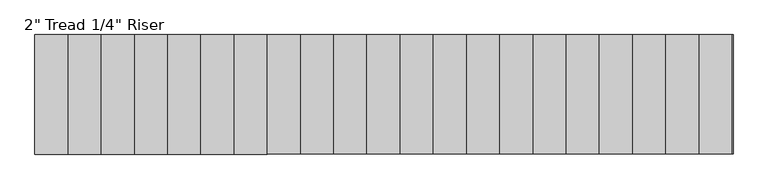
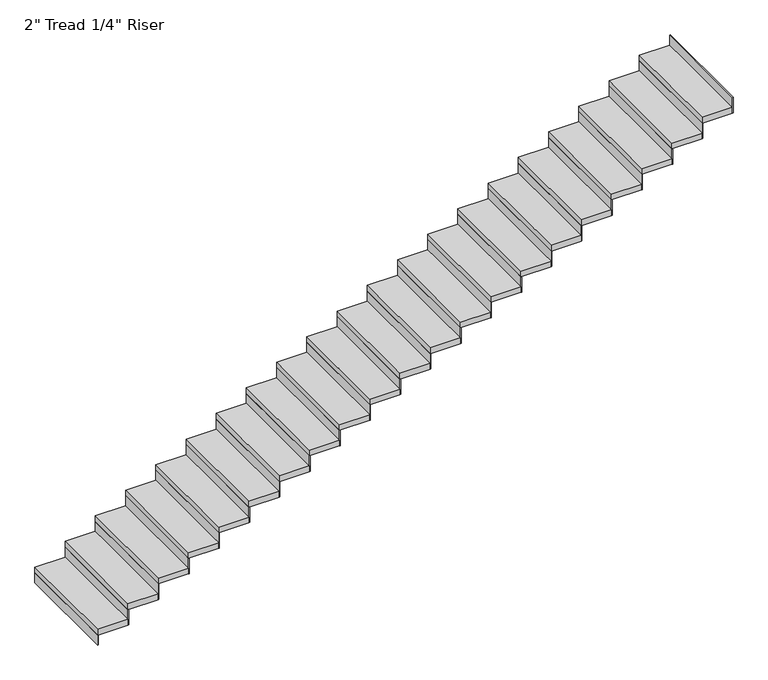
"""IFC4 building model written with IfcOpenShell, lengths in millimetres: stair flight geometry."""

from ifc_helpers import new_model, si_unit, frame, origin, origin_with_axes, place, context, project, spatial, polyline, outline, extrude, source, transform, mapped, element, save


def stair_flight_10bc530e(model_context):
    return source(origin(), model_context, "Body", "SweptSolid", [
        extrude(outline(polyline([(13209.8286682, -10136.835031), (13203.4786682, -10136.835031), (13203.4786682, -9222.435031), (13209.8286682, -9222.435031), (13209.8286682, -10136.835031)])), origin_with_axes(), (0.0, 0.0, 1.0), 87.7454545),
        extrude(outline(polyline([(13457.4786682, -9222.435031), (13457.4786682, -10136.835031), (13203.4786682, -10136.835031), (13203.4786682, -9222.435031), (13457.4786682, -9222.435031)])), frame((0.0, 0.0, 87.7454545), z_axis=(0.0, 0.0, 1.0), x_axis=(1.0, 0.0, 0.0)), (0.0, 0.0, 1.0), 50.8),
        extrude(outline(polyline([(13463.8286682, -10136.835031), (13457.4786682, -10136.835031), (13457.4786682, -9222.435031), (13463.8286682, -9222.435031), (13463.8286682, -10136.835031)])), frame((0.0, 0.0, 87.7454545), z_axis=(0.0, 0.0, 1.0), x_axis=(1.0, 0.0, 0.0)), (0.0, 0.0, 1.0), 138.5454545),
        extrude(outline(polyline([(13711.4786682, -9222.435031), (13711.4786682, -10136.835031), (13457.4786682, -10136.835031), (13457.4786682, -9222.435031), (13711.4786682, -9222.435031)])), frame((0.0, 0.0, 226.2909091), z_axis=(0.0, 0.0, 1.0), x_axis=(1.0, 0.0, 0.0)), (0.0, 0.0, 1.0), 50.8),
        extrude(outline(polyline([(13717.8286682, -10136.835031), (13711.4786682, -10136.835031), (13711.4786682, -9222.435031), (13717.8286682, -9222.435031), (13717.8286682, -10136.835031)])), frame((0.0, 0.0, 226.2909091), z_axis=(0.0, 0.0, 1.0), x_axis=(1.0, 0.0, 0.0)), (0.0, 0.0, 1.0), 138.5454545),
        extrude(outline(polyline([(13965.4786682, -9222.435031), (13965.4786682, -10136.835031), (13711.4786682, -10136.835031), (13711.4786682, -9222.435031), (13965.4786682, -9222.435031)])), frame((0.0, 0.0, 364.8363636), z_axis=(0.0, 0.0, 1.0), x_axis=(1.0, 0.0, 0.0)), (0.0, 0.0, 1.0), 50.8),
        extrude(outline(polyline([(13971.8286682, -10136.835031), (13965.4786682, -10136.835031), (13965.4786682, -9222.435031), (13971.8286682, -9222.435031), (13971.8286682, -10136.835031)])), frame((0.0, 0.0, 364.8363636), z_axis=(0.0, 0.0, 1.0), x_axis=(1.0, 0.0, 0.0)), (0.0, 0.0, 1.0), 138.5454545),
        extrude(outline(polyline([(14219.4786682, -9222.435031), (14219.4786682, -10136.835031), (13965.4786682, -10136.835031), (13965.4786682, -9222.435031), (14219.4786682, -9222.435031)])), frame((0.0, 0.0, 503.3818182), z_axis=(0.0, 0.0, 1.0), x_axis=(1.0, 0.0, 0.0)), (0.0, 0.0, 1.0), 50.8),
        extrude(outline(polyline([(14225.8286682, -10136.835031), (14219.4786682, -10136.835031), (14219.4786682, -9222.435031), (14225.8286682, -9222.435031), (14225.8286682, -10136.835031)])), frame((0.0, 0.0, 503.3818182), z_axis=(0.0, 0.0, 1.0), x_axis=(1.0, 0.0, 0.0)), (0.0, 0.0, 1.0), 138.5454545),
        extrude(outline(polyline([(14473.4786682, -9222.435031), (14473.4786682, -10136.835031), (14219.4786682, -10136.835031), (14219.4786682, -9222.435031), (14473.4786682, -9222.435031)])), frame((0.0, 0.0, 641.9272727), z_axis=(0.0, 0.0, 1.0), x_axis=(1.0, 0.0, 0.0)), (0.0, 0.0, 1.0), 50.8),
        extrude(outline(polyline([(14479.8286682, -10136.835031), (14473.4786682, -10136.835031), (14473.4786682, -9222.435031), (14479.8286682, -9222.435031), (14479.8286682, -10136.835031)])), frame((0.0, 0.0, 641.9272727), z_axis=(0.0, 0.0, 1.0), x_axis=(1.0, 0.0, 0.0)), (0.0, 0.0, 1.0), 138.5454545),
        extrude(outline(polyline([(14727.4786682, -9222.435031), (14727.4786682, -10136.835031), (14473.4786682, -10136.835031), (14473.4786682, -9222.435031), (14727.4786682, -9222.435031)])), frame((0.0, 0.0, 780.4727273), z_axis=(0.0, 0.0, 1.0), x_axis=(1.0, 0.0, 0.0)), (0.0, 0.0, 1.0), 50.8),
        extrude(outline(polyline([(14733.8286682, -10136.835031), (14727.4786682, -10136.835031), (14727.4786682, -9222.435031), (14733.8286682, -9222.435031), (14733.8286682, -10136.835031)])), frame((0.0, 0.0, 780.4727273), z_axis=(0.0, 0.0, 1.0), x_axis=(1.0, 0.0, 0.0)), (0.0, 0.0, 1.0), 138.5454545),
        extrude(outline(polyline([(14981.4786682, -9222.435031), (14981.4786682, -10136.835031), (14727.4786682, -10136.835031), (14727.4786682, -9222.435031), (14981.4786682, -9222.435031)])), frame((0.0, 0.0, 919.0181818), z_axis=(0.0, 0.0, 1.0), x_axis=(1.0, 0.0, 0.0)), (0.0, 0.0, 1.0), 50.8),
        extrude(outline(polyline([(14987.8286682, -10136.835031), (14981.4786682, -10136.835031), (14981.4786682, -9222.435031), (14987.8286682, -9222.435031), (14987.8286682, -10136.835031)])), frame((0.0, 0.0, 919.0181818), z_axis=(0.0, 0.0, 1.0), x_axis=(1.0, 0.0, 0.0)), (0.0, 0.0, 1.0), 138.5454545),
        extrude(outline(polyline([(15235.4786682, -9222.435031), (15235.4786682, -10136.835031), (14981.4786682, -10136.835031), (14981.4786682, -9222.435031), (15235.4786682, -9222.435031)])), frame((0.0, 0.0, 1057.5636364), z_axis=(0.0, 0.0, 1.0), x_axis=(1.0, 0.0, 0.0)), (0.0, 0.0, 1.0), 50.8),
        extrude(outline(polyline([(15241.8286682, -10136.835031), (15235.4786682, -10136.835031), (15235.4786682, -9222.435031), (15241.8286682, -9222.435031), (15241.8286682, -10136.835031)])), frame((0.0, 0.0, 1057.5636364), z_axis=(0.0, 0.0, 1.0), x_axis=(1.0, 0.0, 0.0)), (0.0, 0.0, 1.0), 138.5454545),
        extrude(outline(polyline([(15489.4786682, -9222.435031), (15489.4786682, -10136.835031), (15235.4786682, -10136.835031), (15235.4786682, -9222.435031), (15489.4786682, -9222.435031)])), frame((0.0, 0.0, 1196.1090909), z_axis=(0.0, 0.0, 1.0), x_axis=(1.0, 0.0, 0.0)), (0.0, 0.0, 1.0), 50.8),
        extrude(outline(polyline([(15495.8286682, -10136.835031), (15489.4786682, -10136.835031), (15489.4786682, -9222.435031), (15495.8286682, -9222.435031), (15495.8286682, -10136.835031)])), frame((0.0, 0.0, 1196.1090909), z_axis=(0.0, 0.0, 1.0), x_axis=(1.0, 0.0, 0.0)), (0.0, 0.0, 1.0), 138.5454545),
        extrude(outline(polyline([(15743.4786682, -9222.435031), (15743.4786682, -10136.835031), (15489.4786682, -10136.835031), (15489.4786682, -9222.435031), (15743.4786682, -9222.435031)])), frame((0.0, 0.0, 1334.6545455), z_axis=(0.0, 0.0, 1.0), x_axis=(1.0, 0.0, 0.0)), (0.0, 0.0, 1.0), 50.8),
        extrude(outline(polyline([(15749.8286682, -10136.835031), (15743.4786682, -10136.835031), (15743.4786682, -9222.435031), (15749.8286682, -9222.435031), (15749.8286682, -10136.835031)])), frame((0.0, 0.0, 1334.6545455), z_axis=(0.0, 0.0, 1.0), x_axis=(1.0, 0.0, 0.0)), (0.0, 0.0, 1.0), 138.5454545),
        extrude(outline(polyline([(15997.4786682, -9222.435031), (15997.4786682, -10136.835031), (15743.4786682, -10136.835031), (15743.4786682, -9222.435031), (15997.4786682, -9222.435031)])), frame((0.0, 0.0, 1473.2), z_axis=(0.0, 0.0, 1.0), x_axis=(1.0, 0.0, 0.0)), (0.0, 0.0, 1.0), 50.8),
        extrude(outline(polyline([(16003.8286682, -10136.835031), (15997.4786682, -10136.835031), (15997.4786682, -9222.435031), (16003.8286682, -9222.435031), (16003.8286682, -10136.835031)])), frame((0.0, 0.0, 1473.2), z_axis=(0.0, 0.0, 1.0), x_axis=(1.0, 0.0, 0.0)), (0.0, 0.0, 1.0), 138.5454545),
        extrude(outline(polyline([(16251.4786682, -9222.435031), (16251.4786682, -10136.835031), (15997.4786682, -10136.835031), (15997.4786682, -9222.435031), (16251.4786682, -9222.435031)])), frame((0.0, 0.0, 1611.7454545), z_axis=(0.0, 0.0, 1.0), x_axis=(1.0, 0.0, 0.0)), (0.0, 0.0, 1.0), 50.8),
        extrude(outline(polyline([(16257.8286682, -10136.835031), (16251.4786682, -10136.835031), (16251.4786682, -9222.435031), (16257.8286682, -9222.435031), (16257.8286682, -10136.835031)])), frame((0.0, 0.0, 1611.7454545), z_axis=(0.0, 0.0, 1.0), x_axis=(1.0, 0.0, 0.0)), (0.0, 0.0, 1.0), 138.5454545),
        extrude(outline(polyline([(16505.4786682, -9222.435031), (16505.4786682, -10136.835031), (16251.4786682, -10136.835031), (16251.4786682, -9222.435031), (16505.4786682, -9222.435031)])), frame((0.0, 0.0, 1750.2909091), z_axis=(0.0, 0.0, 1.0), x_axis=(1.0, 0.0, 0.0)), (0.0, 0.0, 1.0), 50.8),
        extrude(outline(polyline([(16511.8286682, -10136.835031), (16505.4786682, -10136.835031), (16505.4786682, -9222.435031), (16511.8286682, -9222.435031), (16511.8286682, -10136.835031)])), frame((0.0, 0.0, 1750.2909091), z_axis=(0.0, 0.0, 1.0), x_axis=(1.0, 0.0, 0.0)), (0.0, 0.0, 1.0), 138.5454545),
        extrude(outline(polyline([(16759.4786682, -9222.435031), (16759.4786682, -10136.835031), (16505.4786682, -10136.835031), (16505.4786682, -9222.435031), (16759.4786682, -9222.435031)])), frame((0.0, 0.0, 1888.8363636), z_axis=(0.0, 0.0, 1.0), x_axis=(1.0, 0.0, 0.0)), (0.0, 0.0, 1.0), 50.8),
        extrude(outline(polyline([(16765.8286682, -10136.835031), (16759.4786682, -10136.835031), (16759.4786682, -9222.435031), (16765.8286682, -9222.435031), (16765.8286682, -10136.835031)])), frame((0.0, 0.0, 1888.8363636), z_axis=(0.0, 0.0, 1.0), x_axis=(1.0, 0.0, 0.0)), (0.0, 0.0, 1.0), 138.5454545),
        extrude(outline(polyline([(17013.4786682, -9222.435031), (17013.4786682, -10136.835031), (16759.4786682, -10136.835031), (16759.4786682, -9222.435031), (17013.4786682, -9222.435031)])), frame((0.0, 0.0, 2027.3818182), z_axis=(0.0, 0.0, 1.0), x_axis=(1.0, 0.0, 0.0)), (0.0, 0.0, 1.0), 50.8),
        extrude(outline(polyline([(17019.8286682, -10136.835031), (17013.4786682, -10136.835031), (17013.4786682, -9222.435031), (17019.8286682, -9222.435031), (17019.8286682, -10136.835031)])), frame((0.0, 0.0, 2027.3818182), z_axis=(0.0, 0.0, 1.0), x_axis=(1.0, 0.0, 0.0)), (0.0, 0.0, 1.0), 138.5454545),
        extrude(outline(polyline([(17267.4786682, -9222.435031), (17267.4786682, -10136.835031), (17013.4786682, -10136.835031), (17013.4786682, -9222.435031), (17267.4786682, -9222.435031)])), frame((0.0, 0.0, 2165.9272727), z_axis=(0.0, 0.0, 1.0), x_axis=(1.0, 0.0, 0.0)), (0.0, 0.0, 1.0), 50.8),
        extrude(outline(polyline([(17273.8286682, -10136.835031), (17267.4786682, -10136.835031), (17267.4786682, -9222.435031), (17273.8286682, -9222.435031), (17273.8286682, -10136.835031)])), frame((0.0, 0.0, 2165.9272727), z_axis=(0.0, 0.0, 1.0), x_axis=(1.0, 0.0, 0.0)), (0.0, 0.0, 1.0), 138.5454545),
        extrude(outline(polyline([(17521.4786682, -9222.435031), (17521.4786682, -10136.835031), (17267.4786682, -10136.835031), (17267.4786682, -9222.435031), (17521.4786682, -9222.435031)])), frame((0.0, 0.0, 2304.4727273), z_axis=(0.0, 0.0, 1.0), x_axis=(1.0, 0.0, 0.0)), (0.0, 0.0, 1.0), 50.8),
        extrude(outline(polyline([(17527.8286682, -10136.835031), (17521.4786682, -10136.835031), (17521.4786682, -9222.435031), (17527.8286682, -9222.435031), (17527.8286682, -10136.835031)])), frame((0.0, 0.0, 2304.4727273), z_axis=(0.0, 0.0, 1.0), x_axis=(1.0, 0.0, 0.0)), (0.0, 0.0, 1.0), 138.5454545),
        extrude(outline(polyline([(17775.4786682, -9222.435031), (17775.4786682, -10136.835031), (17521.4786682, -10136.835031), (17521.4786682, -9222.435031), (17775.4786682, -9222.435031)])), frame((0.0, 0.0, 2443.0181818), z_axis=(0.0, 0.0, 1.0), x_axis=(1.0, 0.0, 0.0)), (0.0, 0.0, 1.0), 50.8),
        extrude(outline(polyline([(17781.8286682, -10136.835031), (17775.4786682, -10136.835031), (17775.4786682, -9222.435031), (17781.8286682, -9222.435031), (17781.8286682, -10136.835031)])), frame((0.0, 0.0, 2443.0181818), z_axis=(0.0, 0.0, 1.0), x_axis=(1.0, 0.0, 0.0)), (0.0, 0.0, 1.0), 138.5454545),
        extrude(outline(polyline([(18029.4786682, -9222.435031), (18029.4786682, -10136.835031), (17775.4786682, -10136.835031), (17775.4786682, -9222.435031), (18029.4786682, -9222.435031)])), frame((0.0, 0.0, 2581.5636364), z_axis=(0.0, 0.0, 1.0), x_axis=(1.0, 0.0, 0.0)), (0.0, 0.0, 1.0), 50.8),
        extrude(outline(polyline([(18035.8286682, -10136.835031), (18029.4786682, -10136.835031), (18029.4786682, -9222.435031), (18035.8286682, -9222.435031), (18035.8286682, -10136.835031)])), frame((0.0, 0.0, 2581.5636364), z_axis=(0.0, 0.0, 1.0), x_axis=(1.0, 0.0, 0.0)), (0.0, 0.0, 1.0), 138.5454545),
        extrude(outline(polyline([(18283.4786682, -9222.435031), (18283.4786682, -10136.835031), (18029.4786682, -10136.835031), (18029.4786682, -9222.435031), (18283.4786682, -9222.435031)])), frame((0.0, 0.0, 2720.1090909), z_axis=(0.0, 0.0, 1.0), x_axis=(1.0, 0.0, 0.0)), (0.0, 0.0, 1.0), 50.8),
        extrude(outline(polyline([(18289.8286682, -10136.835031), (18283.4786682, -10136.835031), (18283.4786682, -9222.435031), (18289.8286682, -9222.435031), (18289.8286682, -10136.835031)])), frame((0.0, 0.0, 2720.1090909), z_axis=(0.0, 0.0, 1.0), x_axis=(1.0, 0.0, 0.0)), (0.0, 0.0, 1.0), 138.5454545),
        extrude(outline(polyline([(18543.8286682, -10136.835031), (18537.4786682, -10136.835031), (18537.4786682, -9222.435031), (18543.8286682, -9222.435031), (18543.8286682, -10136.835031)])), frame((0.0, 0.0, 2858.6545455), z_axis=(0.0, 0.0, 1.0), x_axis=(1.0, 0.0, 0.0)), (0.0, 0.0, 1.0), 138.5454545),
        extrude(outline(polyline([(18537.4786682, -9222.435031), (18537.4786682, -10136.835031), (18283.4786682, -10136.835031), (18283.4786682, -9222.435031), (18537.4786682, -9222.435031)])), frame((0.0, 0.0, 2858.6545455), z_axis=(0.0, 0.0, 1.0), x_axis=(1.0, 0.0, 0.0)), (0.0, 0.0, 1.0), 50.8),
    ])


if __name__ == "__main__":
    model = new_model("IFC4")
    model_context = context("Model", 3, world=origin())
    ifc_project = project(units=[si_unit("LENGTHUNIT", "METRE", prefix="MILLI")], contexts=[model_context])
    site = spatial("IfcSite", under=ifc_project)
    building = spatial("IfcBuilding", under=site)
    placement = place(None, origin())
    stair_flight_shape = stair_flight_10bc530e(model_context)
    element("IfcStairFlight", 1, ObjectType="2\" Tread 1/4\" Riser", at=placement, inside=building, context=model_context, shape_type="MappedRepresentation", body=[
        mapped(stair_flight_shape, transform((0.0, 0.0, 0.0), x_axis=(1.0, 0.0, 0.0), y_axis=(0.0, 1.0, 0.0), z_axis=(0.0, 0.0, 1.0))),
    ])
    save(model, "model.ifc")
